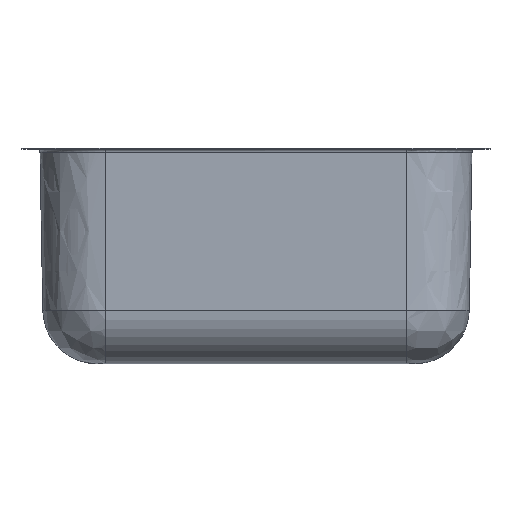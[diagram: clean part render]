
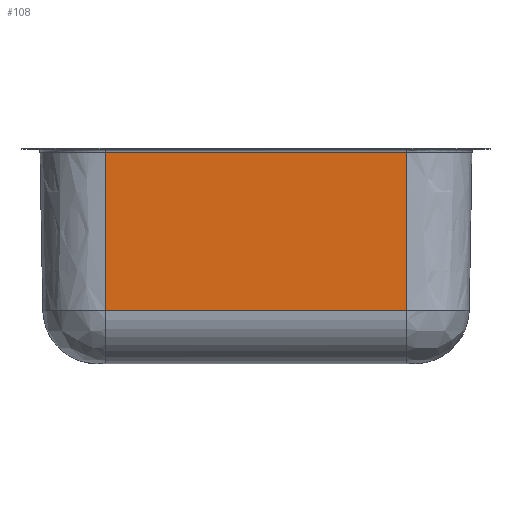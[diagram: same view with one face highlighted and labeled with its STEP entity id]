
A CAD part, left-side view. The second image highlights one B-rep face of the part: STEP entity #108.
In plain terms, the highlighted planar face has unit normal (-1, 0, -0.018).
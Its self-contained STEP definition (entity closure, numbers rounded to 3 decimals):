
#108=ADVANCED_FACE('',(#232),#233,.T.);
#232=FACE_OUTER_BOUND('',#1666,.T.);
#233=PLANE('',#1667);
#1666=EDGE_LOOP('',(#4895,#4896,#4897,#4898));
#1667=AXIS2_PLACEMENT_3D('',#4899,#4900,#4901);
#4895=ORIENTED_EDGE('',*,*,#5292,.T.);
#4896=ORIENTED_EDGE('',*,*,#5276,.T.);
#4897=ORIENTED_EDGE('',*,*,#5293,.T.);
#4898=ORIENTED_EDGE('',*,*,#5290,.F.);
#4899=CARTESIAN_POINT('',(-251.054,0.0,-100.014));
#4900=DIRECTION('',(-1.,0.0,-0.017));
#4901=DIRECTION('',(-0.017,0.0,1.));
#5276=EDGE_CURVE('',#5525,#5527,#5529,.T.);
#5290=EDGE_CURVE('',#5548,#5550,#5551,.T.);
#5292=EDGE_CURVE('',#5548,#5525,#5553,.T.);
#5293=EDGE_CURVE('',#5527,#5550,#5554,.F.);
#5525=VERTEX_POINT('',#6245);
#5527=VERTEX_POINT('',#6285);
#5529=B_SPLINE_CURVE_WITH_KNOTS('',1,(#6301,#6302),.UNSPECIFIED.,.F.,.F.,(2,2),(49.135,196.296),.UNSPECIFIED.);
#5548=VERTEX_POINT('',#6416);
#5550=VERTEX_POINT('',#6456);
#5551=B_SPLINE_CURVE_WITH_KNOTS('',1,(#6457,#6458),.UNSPECIFIED.,.F.,.F.,(2,2),(49.135,196.296),.UNSPECIFIED.);
#5553=LINE('',#6474,#6475);
#5554=LINE('',#6476,#6477);
#6245=CARTESIAN_POINT('',(-250.166,-140.5,-150.887));
#6285=CARTESIAN_POINT('',(-252.735,-140.5,-3.748));
#6301=CARTESIAN_POINT('',(-250.166,-140.5,-150.887));
#6302=CARTESIAN_POINT('',(-252.735,-140.5,-3.748));
#6416=CARTESIAN_POINT('',(-250.166,140.5,-150.887));
#6456=CARTESIAN_POINT('',(-252.735,140.5,-3.748));
#6457=CARTESIAN_POINT('',(-250.166,140.5,-150.887));
#6458=CARTESIAN_POINT('',(-252.735,140.5,-3.748));
#6474=CARTESIAN_POINT('',(-250.166,0.,-150.887));
#6475=VECTOR('',#7295,1.0);
#6476=CARTESIAN_POINT('',(-252.735,0.,-3.748));
#6477=VECTOR('',#7296,1.0);
#7295=DIRECTION('',(0.0,-1.0,0.0));
#7296=DIRECTION('',(0.0,-1.0,0.0));
